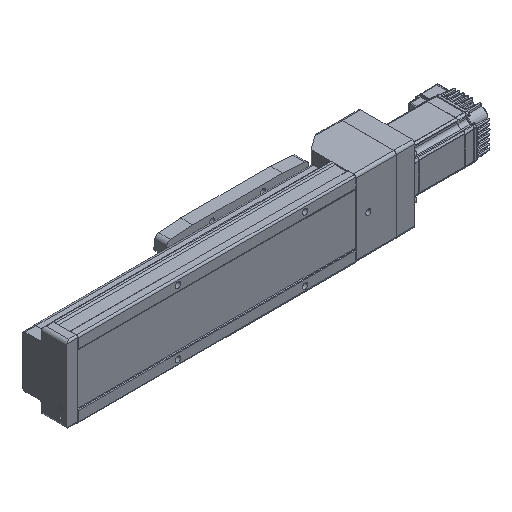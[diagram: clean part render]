
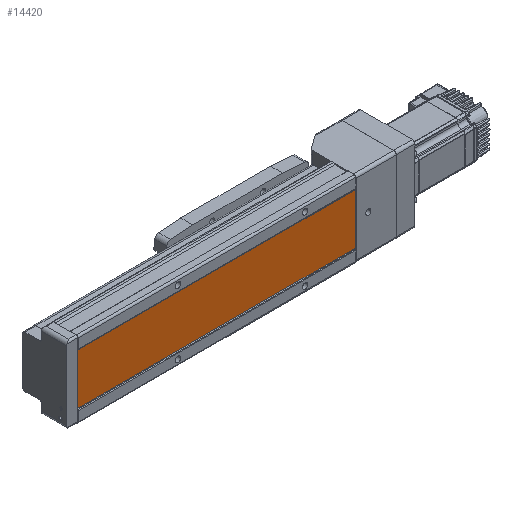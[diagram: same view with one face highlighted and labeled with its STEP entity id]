
A CAD part, isometric view. The second image highlights one B-rep face of the part: STEP entity #14420.
In plain terms, the highlighted planar face has unit normal (0, -1, 0).
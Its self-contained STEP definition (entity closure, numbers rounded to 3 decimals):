
#517 = EDGE_CURVE ( 'NONE', #14719, #13223, #26950, .T. ) ;
#2547 = CARTESIAN_POINT ( 'NONE',  ( -29.843, 1., 1378. ) ) ;
#3102 = ORIENTED_EDGE ( 'NONE', *, *, #15553, .T. ) ;
#3145 = ORIENTED_EDGE ( 'NONE', *, *, #517, .F. ) ;
#4096 = VECTOR ( 'NONE', #56516, 1000. ) ;
#6005 = AXIS2_PLACEMENT_3D ( 'NONE', #2547, #50689, #29341 ) ;
#9486 = CARTESIAN_POINT ( 'NONE',  ( 29.843, 1., 0. ) ) ;
#12873 = CARTESIAN_POINT ( 'NONE',  ( 29.843, 1., 1378. ) ) ;
#13223 = VERTEX_POINT ( 'NONE', #9486 ) ;
#13441 = DIRECTION ( 'NONE',  ( 1., 0., 0. ) ) ;
#14420 = ADVANCED_FACE ( 'NONE', ( #52795 ), #16399, .F. ) ;
#14429 = EDGE_LOOP ( 'NONE', ( #54997, #23090, #3102, #3145 ) ) ;
#14719 = VERTEX_POINT ( 'NONE', #22718 ) ;
#15553 = EDGE_CURVE ( 'NONE', #23329, #13223, #42438, .T. ) ;
#16399 = PLANE ( 'NONE',  #6005 ) ;
#20371 = VECTOR ( 'NONE', #13441, 1000. ) ;
#22225 = CARTESIAN_POINT ( 'NONE',  ( -29.843, 1., 328. ) ) ;
#22718 = CARTESIAN_POINT ( 'NONE',  ( 29.843, 1., 328. ) ) ;
#22966 = EDGE_CURVE ( 'NONE', #27007, #23329, #43302, .T. ) ;
#23090 = ORIENTED_EDGE ( 'NONE', *, *, #22966, .T. ) ;
#23329 = VERTEX_POINT ( 'NONE', #39192 ) ;
#23332 = VECTOR ( 'NONE', #25400, 1000. ) ;
#25095 = CARTESIAN_POINT ( 'NONE',  ( -29.843, 1., 0. ) ) ;
#25400 = DIRECTION ( 'NONE',  ( 1., 0., 0. ) ) ;
#26950 = LINE ( 'NONE', #12873, #32959 ) ;
#27007 = VERTEX_POINT ( 'NONE', #22225 ) ;
#29341 = DIRECTION ( 'NONE',  ( 0., 0., 1. ) ) ;
#30147 = DIRECTION ( 'NONE',  ( 0., 0., -1. ) ) ;
#32959 = VECTOR ( 'NONE', #30147, 1000. ) ;
#38969 = CARTESIAN_POINT ( 'NONE',  ( -29.843, 1., 1378. ) ) ;
#39192 = CARTESIAN_POINT ( 'NONE',  ( -29.843, 1., 0. ) ) ;
#39919 = LINE ( 'NONE', #53164, #20371 ) ;
#42438 = LINE ( 'NONE', #25095, #23332 ) ;
#43302 = LINE ( 'NONE', #38969, #4096 ) ;
#48787 = EDGE_CURVE ( 'NONE', #27007, #14719, #39919, .T. ) ;
#50689 = DIRECTION ( 'NONE',  ( 0., 1., 0. ) ) ;
#52795 = FACE_OUTER_BOUND ( 'NONE', #14429, .T. ) ;
#53164 = CARTESIAN_POINT ( 'NONE',  ( -29.843, 1., 328. ) ) ;
#54997 = ORIENTED_EDGE ( 'NONE', *, *, #48787, .F. ) ;
#56516 = DIRECTION ( 'NONE',  ( 0., 0., -1. ) ) ;
